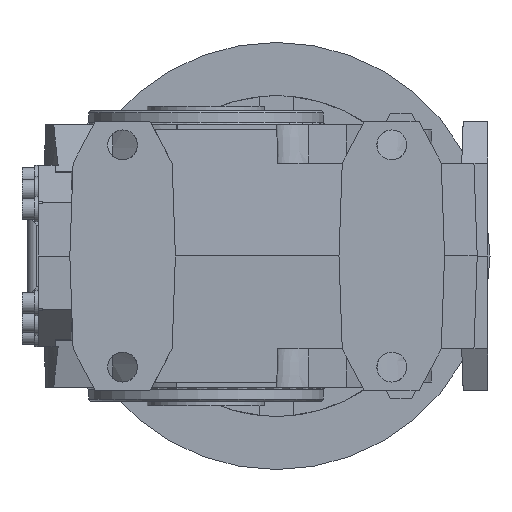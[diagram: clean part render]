
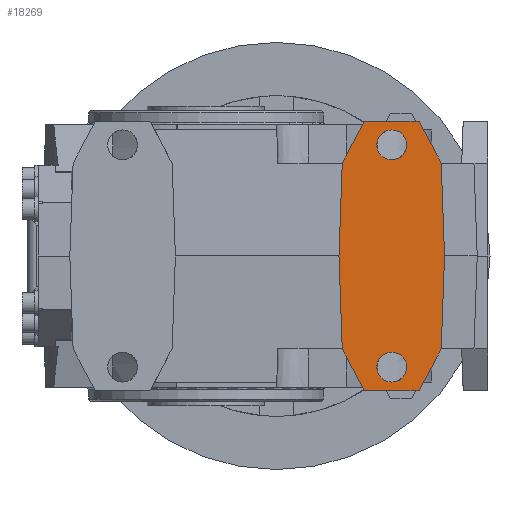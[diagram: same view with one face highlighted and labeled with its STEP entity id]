
A CAD part, left-side view. The second image highlights one B-rep face of the part: STEP entity #18269.
In plain terms, the highlighted planar face has unit normal (-1, 0, 0) as drawn and (1, 0, 0) by its records, which use the part's own axes.
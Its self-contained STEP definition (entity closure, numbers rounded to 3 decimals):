
#628=CIRCLE('',#19266,7.);
#629=CIRCLE('',#19267,7.);
#2499=ORIENTED_EDGE('',*,*,#5526,.F.);
#2500=ORIENTED_EDGE('',*,*,#5527,.F.);
#2501=ORIENTED_EDGE('',*,*,#5100,.T.);
#2502=ORIENTED_EDGE('',*,*,#5103,.T.);
#2503=ORIENTED_EDGE('',*,*,#5521,.T.);
#2504=ORIENTED_EDGE('',*,*,#5522,.T.);
#2505=ORIENTED_EDGE('',*,*,#5089,.T.);
#2506=ORIENTED_EDGE('',*,*,#5093,.T.);
#2507=ORIENTED_EDGE('',*,*,#5096,.T.);
#2508=ORIENTED_EDGE('',*,*,#5524,.T.);
#2509=ORIENTED_EDGE('',*,*,#5525,.T.);
#2510=ORIENTED_EDGE('',*,*,#5105,.T.);
#5089=EDGE_CURVE('',#6831,#6830,#8086,.T.);
#5093=EDGE_CURVE('',#6830,#6833,#8090,.T.);
#5096=EDGE_CURVE('',#6833,#6834,#8093,.T.);
#5100=EDGE_CURVE('',#6836,#6838,#8097,.T.);
#5103=EDGE_CURVE('',#6838,#6839,#8100,.T.);
#5105=EDGE_CURVE('',#6840,#6836,#8102,.T.);
#5521=EDGE_CURVE('',#6839,#7083,#8398,.T.);
#5522=EDGE_CURVE('',#7083,#6831,#8399,.T.);
#5524=EDGE_CURVE('',#6834,#7084,#8401,.T.);
#5525=EDGE_CURVE('',#7084,#6840,#8402,.T.);
#5526=EDGE_CURVE('',#7085,#7085,#628,.T.);
#5527=EDGE_CURVE('',#7086,#7086,#629,.T.);
#6830=VERTEX_POINT('',#24846);
#6831=VERTEX_POINT('',#24848);
#6833=VERTEX_POINT('',#24854);
#6834=VERTEX_POINT('',#24859);
#6836=VERTEX_POINT('',#24864);
#6838=VERTEX_POINT('',#24868);
#6839=VERTEX_POINT('',#24873);
#6840=VERTEX_POINT('',#24878);
#7083=VERTEX_POINT('',#25796);
#7084=VERTEX_POINT('',#25802);
#7085=VERTEX_POINT('',#25808);
#7086=VERTEX_POINT('',#25810);
#8086=LINE('',#24847,#9409);
#8090=LINE('',#24855,#9413);
#8093=LINE('',#24860,#9416);
#8097=LINE('',#24869,#9420);
#8100=LINE('',#24874,#9423);
#8102=LINE('',#24877,#9425);
#8398=LINE('',#25797,#9721);
#8399=LINE('',#25799,#9722);
#8401=LINE('',#25803,#9724);
#8402=LINE('',#25805,#9725);
#9409=VECTOR('',#20821,1000.);
#9413=VECTOR('',#20827,1000.);
#9416=VECTOR('',#20832,1000.);
#9420=VECTOR('',#20838,1000.);
#9423=VECTOR('',#20843,1000.);
#9425=VECTOR('',#20847,1000.);
#9721=VECTOR('',#21667,1000.);
#9722=VECTOR('',#21670,1000.);
#9724=VECTOR('',#21674,1000.);
#9725=VECTOR('',#21677,1000.);
#10637=EDGE_LOOP('',(#2499));
#10638=EDGE_LOOP('',(#2500));
#10639=EDGE_LOOP('',(#2501,#2502,#2503,#2504,#2505,#2506,#2507,#2508,#2509,
#2510));
#11587=FACE_BOUND('',#10637,.T.);
#11588=FACE_BOUND('',#10638,.T.);
#11589=FACE_BOUND('',#10639,.T.);
#12469=PLANE('',#19265);
#18269=ADVANCED_FACE('',(#11587,#11588,#11589),#12469,.T.);
#19265=AXIS2_PLACEMENT_3D('',#25806,#21678,#21679);
#19266=AXIS2_PLACEMENT_3D('',#25807,#21680,#21681);
#19267=AXIS2_PLACEMENT_3D('',#25809,#21682,#21683);
#20821=DIRECTION('',(0.,0.469,-0.883));
#20827=DIRECTION('',(0.,1.,0.));
#20832=DIRECTION('',(0.,0.469,0.883));
#20838=DIRECTION('',(0.,-1.,0.));
#20843=DIRECTION('',(0.,-0.469,-0.883));
#20847=DIRECTION('',(0.,-0.469,0.883));
#21667=DIRECTION('',(0.,-0.035,-0.999));
#21670=DIRECTION('',(0.,0.035,-0.999));
#21674=DIRECTION('',(0.,0.035,0.999));
#21677=DIRECTION('',(0.,-0.035,0.999));
#21678=DIRECTION('',(1.,0.,0.));
#21679=DIRECTION('',(0.,0.,-1.));
#21680=DIRECTION('',(1.,0.,0.));
#21681=DIRECTION('',(0.,0.,-1.));
#21682=DIRECTION('',(1.,0.,0.));
#21683=DIRECTION('',(0.,0.,-1.));
#24846=CARTESIAN_POINT('',(262.,-66.813,-63.));
#24847=CARTESIAN_POINT('',(262.,-77.181,-43.5));
#24848=CARTESIAN_POINT('',(262.,-77.181,-43.5));
#24854=CARTESIAN_POINT('',(262.,-41.187,-63.));
#24855=CARTESIAN_POINT('',(262.,-66.813,-63.));
#24859=CARTESIAN_POINT('',(262.,-30.819,-43.5));
#24860=CARTESIAN_POINT('',(262.,-41.187,-63.));
#24864=CARTESIAN_POINT('',(262.,-41.187,63.));
#24868=CARTESIAN_POINT('',(262.,-66.813,63.));
#24869=CARTESIAN_POINT('',(262.,-41.187,63.));
#24873=CARTESIAN_POINT('',(262.,-77.181,43.5));
#24874=CARTESIAN_POINT('',(262.,-66.813,63.));
#24877=CARTESIAN_POINT('',(262.,-30.819,43.5));
#24878=CARTESIAN_POINT('',(262.,-30.819,43.5));
#25796=CARTESIAN_POINT('',(262.,-78.7,0.));
#25797=CARTESIAN_POINT('',(262.,-77.181,43.5));
#25799=CARTESIAN_POINT('',(262.,-78.7,0.));
#25802=CARTESIAN_POINT('',(262.,-29.3,0.));
#25803=CARTESIAN_POINT('',(262.,-30.819,-43.5));
#25805=CARTESIAN_POINT('',(262.,-29.3,0.));
#25806=CARTESIAN_POINT('',(262.,0.,0.));
#25807=CARTESIAN_POINT('',(262.,-54.,52.));
#25808=CARTESIAN_POINT('',(262.,-54.,45.));
#25809=CARTESIAN_POINT('',(262.,-54.,-52.));
#25810=CARTESIAN_POINT('',(262.,-54.,-59.));
